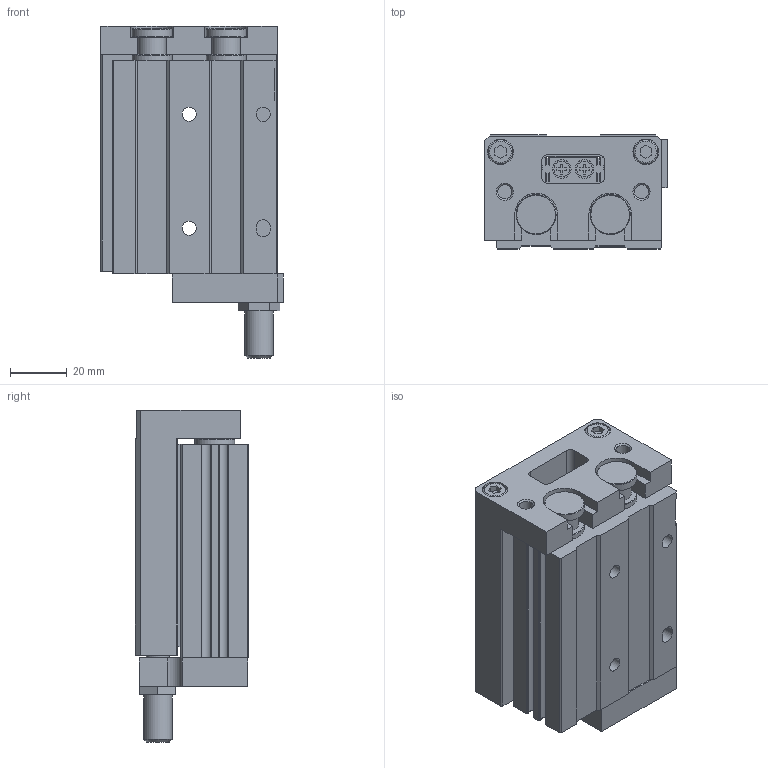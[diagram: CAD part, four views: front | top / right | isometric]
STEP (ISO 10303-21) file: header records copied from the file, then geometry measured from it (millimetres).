
FILE_DESCRIPTION( ( 'STEP AP214' ), '1' );
FILE_NAME( 'C:/Users/EMC02301/Desktop/ELSL图纸/ELSL16X30-S-AF.stp', '2026-08-05T07:45:26', ( 'License CC BY-ND 4.0' ), ( 'CADENAS' ), ' ', 'PARTsolutions', ' ' );
FILE_SCHEMA( ( 'AUTOMOTIVE_DESIGN { 1 0 10303 214 1 1 1 1 }' ) );
Length unit declared in the file: millimetre
Products named in the file (4): ELSL16X30-S-AF(0)(); _ELSL16X30-S-AF(HX-07)(HX-07-1)(0-body); _ELSL16X30-S-AF(0-rod); _FJ-ELSL16-(AF)
Assembly tree (3 placements, depth 2):
  ELSL16X30-S-AF(0)()
    _ELSL16X30-S-AF(HX-07)(HX-07-1)(0-body)
    _ELSL16X30-S-AF(0-rod)
    _FJ-ELSL16-(AF)
Bounding box: 64 x 40 x 116.5 mm (x, y, z)
Volume: 184831.3 mm3; surface area: 61656.3 mm2
Topology: 3 solids, 3 shells, 473 faces, 1149 edges, 756 vertices
Faces by surface type: plane 359, cylinder 87, cone 25, torus 2
Full cylindrical faces by diameter (mm): 4.134 x12, 4.459 x2, 4.917 x4, 5 x2, 5.1 x2, 5.5 x8, 6.5 x8, 8 x5, 8.5 x2, 8.6 x4, 9 x6, 10 x1, 10.5 x4, 14 x6, 16 x4, 18 x2
Entity records: 17014 total; most frequent: CARTESIAN_POINT 2261, DIRECTION 2200, ORIENTED_EDGE 2078, EDGE_CURVE 1039, LINE 832, VECTOR 832, VERTEX_POINT 745, AXIS2_PLACEMENT_3D 684
